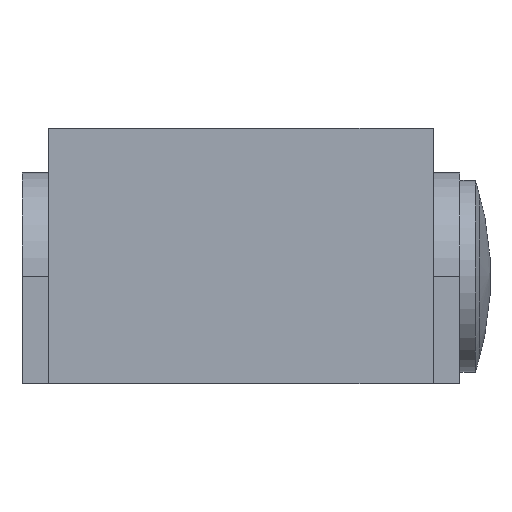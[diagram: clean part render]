
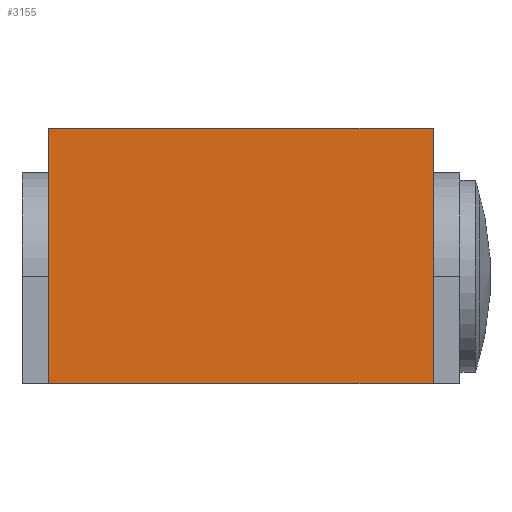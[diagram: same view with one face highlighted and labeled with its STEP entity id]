
A CAD part, front view. The second image highlights one B-rep face of the part: STEP entity #3155.
In plain terms, the highlighted planar face has unit normal (0, -1, 0) as drawn and (0, 0, -1) by its records, which use the part's own axes.
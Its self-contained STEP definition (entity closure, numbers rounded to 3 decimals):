
#1696=CARTESIAN_POINT('',(-25.0,16.8,0.0));
#1697=VERTEX_POINT('',#1696);
#1704=CARTESIAN_POINT('',(-25.0,-16.5,0.0));
#1705=VERTEX_POINT('',#1704);
#1706=CARTESIAN_POINT('',(-25.0,-16.5,0.0));
#1707=DIRECTION('',(0.0,1.0,0.0));
#1708=VECTOR('',#1707,33.3);
#1709=LINE('',#1706,#1708);
#1710=EDGE_CURVE('',#1705,#1697,#1709,.T.);
#1862=CARTESIAN_POINT('',(25.0,16.8,0.0));
#1863=VERTEX_POINT('',#1862);
#1870=CARTESIAN_POINT('',(-25.0,16.8,0.0));
#1871=DIRECTION('',(1.0,0.0,0.0));
#1872=VECTOR('',#1871,50.0);
#1873=LINE('',#1870,#1872);
#1874=EDGE_CURVE('',#1697,#1863,#1873,.T.);
#2120=CARTESIAN_POINT('',(25.0,-16.5,0.0));
#2121=VERTEX_POINT('',#2120);
#2128=CARTESIAN_POINT('',(25.0,16.8,0.0));
#2129=DIRECTION('',(0.0,-1.0,0.0));
#2130=VECTOR('',#2129,33.3);
#2131=LINE('',#2128,#2130);
#2132=EDGE_CURVE('',#1863,#2121,#2131,.T.);
#3132=CARTESIAN_POINT('',(25.0,-16.5,0.0));
#3133=DIRECTION('',(-1.0,0.0,0.0));
#3134=VECTOR('',#3133,50.0);
#3135=LINE('',#3132,#3134);
#3136=EDGE_CURVE('',#2121,#1705,#3135,.T.);
#3144=CARTESIAN_POINT('',(0.0,0.,0.0));
#3145=DIRECTION('',(0.0,0.0,1.0));
#3146=DIRECTION('',(1.0,0.0,0.0));
#3147=AXIS2_PLACEMENT_3D('',#3144,#3145,#3146);
#3148=PLANE('',#3147);
#3149=ORIENTED_EDGE('',*,*,#1874,.T.);
#3150=ORIENTED_EDGE('',*,*,#2132,.T.);
#3151=ORIENTED_EDGE('',*,*,#3136,.T.);
#3152=ORIENTED_EDGE('',*,*,#1710,.T.);
#3153=EDGE_LOOP('',(#3149,#3150,#3151,#3152));
#3154=FACE_OUTER_BOUND('',#3153,.T.);
#3155=ADVANCED_FACE('',(#3154),#3148,.F.);
